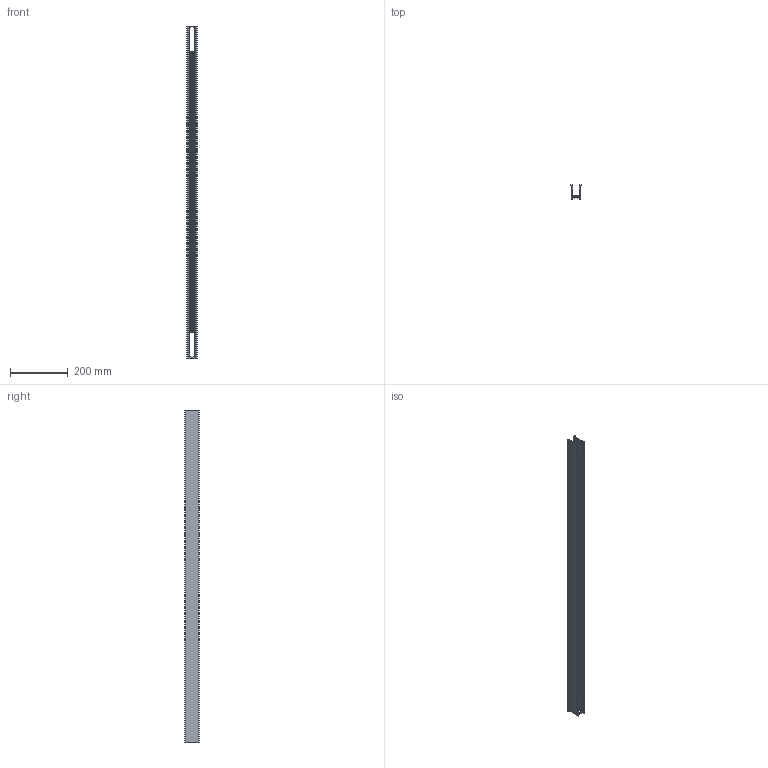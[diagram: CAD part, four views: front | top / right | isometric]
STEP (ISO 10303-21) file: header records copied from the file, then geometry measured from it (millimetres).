
FILE_DESCRIPTION(/* description */ ('Unknown'),/* implementation_level */ '2;1');
FILE_NAME(/* name */ '98356',/* time_stamp */ '2023-02-07T04:26:55-05:00',/* author */ ('Unknown'),/* organization */ ('Unknown'),/* preprocessor_version */ 'ST-DEVELOPER v18.1',/* originating_system */ 'Solid Edge',/* authorisation */ 'Unknown');
FILE_SCHEMA (('AUTOMOTIVE_DESIGN {1 0 10303 214 3 1 1}'));
Length unit declared in the file: millimetre
Products named in the file (1): LED-PRO841
Bounding box: 36 x 49 x 1153 mm (x, y, z)
Volume: 276054.2 mm3; surface area: 325033.3 mm2
Topology: 1 solids, 1 shells, 156 faces, 466 edges, 312 vertices
Faces by surface type: cylinder 100, plane 56
Entity records: 5494 total; most frequent: CARTESIAN_POINT 1269, ORIENTED_EDGE 932, DIRECTION 848, EDGE_CURVE 466, VERTEX_POINT 312, AXIS2_PLACEMENT_3D 305, LINE 238, VECTOR 238
